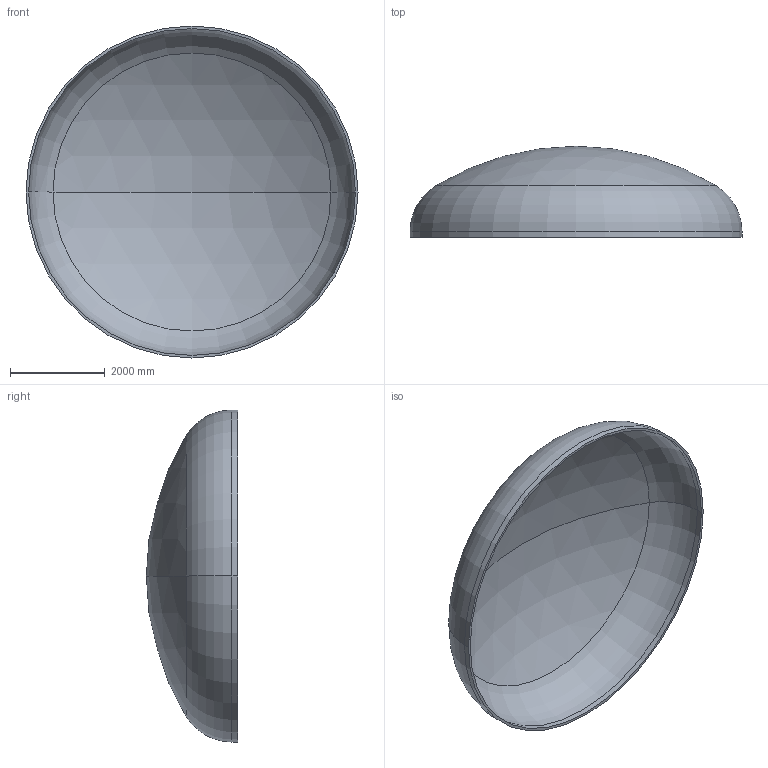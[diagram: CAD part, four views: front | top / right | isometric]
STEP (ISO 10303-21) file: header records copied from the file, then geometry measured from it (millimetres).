
FILE_DESCRIPTION (( 'STEP AP203' ), '1' );
FILE_NAME ('DIN 28013 Korbbogenform_-_Boden DIN 28013 - 7000 x 120 - I - s=54.step', '2016-07-04T10:48:11', ( '' ), ( '' ), 'SwSTEP 2.0', 'SolidWorks 2013', '' );
FILE_SCHEMA (( 'CONFIG_CONTROL_DESIGN' ));
Length unit declared in the file: millimetre
Products named in the file (1): DIN 28013 Korbbogenform_-_Boden DIN 28013 - 7000 x 120 - I - s=54
Bounding box: 7000 x 1922.71 x 7000 mm (x, y, z)
Volume: 2991474960.8 mm3; surface area: 111979794.3 mm2
Topology: 1 solids, 1 shells, 13 faces, 24 edges, 14 vertices
Faces by surface type: torus 4, cylinder 4, sphere 4, plane 1
Entity records: 407 total; most frequent: DIRECTION 72, CARTESIAN_POINT 52, ORIENTED_EDGE 48, AXIS2_PLACEMENT_3D 34, EDGE_CURVE 24, CIRCLE 20, VERTEX_POINT 14, EDGE_LOOP 14
